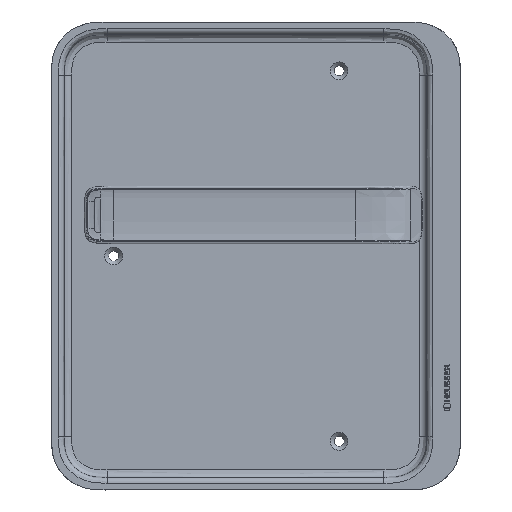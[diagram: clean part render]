
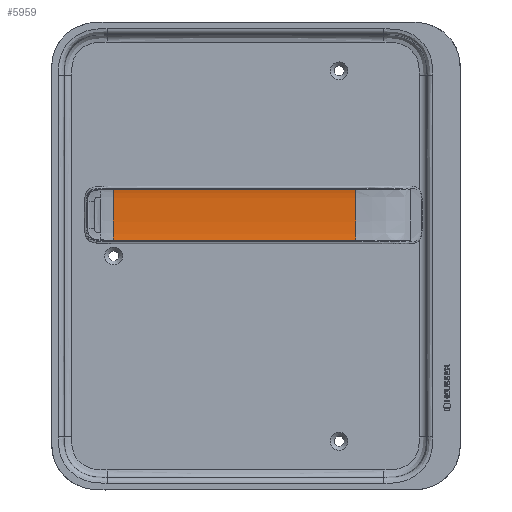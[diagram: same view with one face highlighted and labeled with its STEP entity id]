
A CAD part, top view. The second image highlights one B-rep face of the part: STEP entity #5959.
In plain terms, the highlighted free-form (B-spline) face has degree [1, 5] with [2, 6] control points.
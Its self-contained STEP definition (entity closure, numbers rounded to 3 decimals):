
#164=B_SPLINE_SURFACE_WITH_KNOTS('',1,5,((#17936,#17937,#17938,#17939,#17940,
#17941),(#17942,#17943,#17944,#17945,#17946,#17947)),.UNSPECIFIED.,.F.,
 .F.,.F.,(2,2),(6,6),(0.,1.),(0.,1.),.UNSPECIFIED.);
#417=B_SPLINE_CURVE_WITH_KNOTS('',3,(#14519,#14520,#14521,#14522,#14523,
#14524,#14525,#14526,#14527,#14528,#14529,#14530,#14531,#14532,#14533,#14534,
#14535,#14536,#14537,#14538,#14539,#14540,#14541,#14542,#14543,#14544,#14545,
#14546),.UNSPECIFIED.,.F.,.F.,(4,3,3,3,3,3,3,3,3,4),(3.015,3.808,
4.601,6.186,7.772,9.358,10.943,
12.529,14.115,15.703),.UNSPECIFIED.);
#423=B_SPLINE_CURVE_WITH_KNOTS('',5,(#14621,#14622,#14623,#14624,#14625,
#14626,#14627,#14628,#14629,#14630,#14631,#14632,#14633,#14634,#14635),
 .UNSPECIFIED.,.F.,.F.,(6,1,1,1,1,1,1,1,1,1,6),(20.644,20.647,
22.233,23.819,25.404,26.99,28.576,
30.161,31.747,32.54,33.333),
 .UNSPECIFIED.);
#478=B_SPLINE_CURVE_WITH_KNOTS('',5,(#17286,#17287,#17288,#17289,#17290,
#17291),.UNSPECIFIED.,.F.,.F.,(6,6),(0.014,0.986),
 .UNSPECIFIED.);
#495=B_SPLINE_CURVE_WITH_KNOTS('',5,(#17948,#17949,#17950,#17951,#17952,
#17953),.UNSPECIFIED.,.F.,.F.,(6,6),(0.014,0.986),
 .UNSPECIFIED.);
#1742=FACE_OUTER_BOUND('',#2141,.T.);
#2141=EDGE_LOOP('',(#5126,#5127,#5128,#5129));
#2696=VERTEX_POINT('',#14471);
#2697=VERTEX_POINT('',#14518);
#2702=VERTEX_POINT('',#14605);
#2703=VERTEX_POINT('',#14620);
#3451=EDGE_CURVE('',#2696,#2697,#417,.T.);
#3457=EDGE_CURVE('',#2702,#2703,#423,.T.);
#3527=EDGE_CURVE('',#2703,#2696,#478,.T.);
#3566=EDGE_CURVE('',#2702,#2697,#495,.T.);
#5126=ORIENTED_EDGE('',*,*,#3527,.F.);
#5127=ORIENTED_EDGE('',*,*,#3457,.F.);
#5128=ORIENTED_EDGE('',*,*,#3566,.T.);
#5129=ORIENTED_EDGE('',*,*,#3451,.F.);
#5959=ADVANCED_FACE('',(#1742),#164,.T.);
#14471=CARTESIAN_POINT('',(62.397,21.855,14.439));
#14518=CARTESIAN_POINT('',(-64.454,21.855,14.44));
#14519=CARTESIAN_POINT('Ctrl Pts',(62.397,21.855,14.439));
#14520=CARTESIAN_POINT('Ctrl Pts',(59.754,21.855,14.439));
#14521=CARTESIAN_POINT('Ctrl Pts',(57.111,21.855,14.439));
#14522=CARTESIAN_POINT('Ctrl Pts',(54.468,21.855,14.439));
#14523=CARTESIAN_POINT('Ctrl Pts',(51.826,21.855,14.439));
#14524=CARTESIAN_POINT('Ctrl Pts',(49.184,21.855,14.439));
#14525=CARTESIAN_POINT('Ctrl Pts',(46.541,21.855,14.439));
#14526=CARTESIAN_POINT('Ctrl Pts',(41.256,21.855,14.439));
#14527=CARTESIAN_POINT('Ctrl Pts',(35.969,21.855,14.439));
#14528=CARTESIAN_POINT('Ctrl Pts',(30.683,21.855,14.439));
#14529=CARTESIAN_POINT('Ctrl Pts',(25.397,21.855,14.439));
#14530=CARTESIAN_POINT('Ctrl Pts',(20.113,21.855,14.439));
#14531=CARTESIAN_POINT('Ctrl Pts',(14.828,21.855,14.439));
#14532=CARTESIAN_POINT('Ctrl Pts',(9.544,21.855,14.439));
#14533=CARTESIAN_POINT('Ctrl Pts',(4.259,21.855,14.439));
#14534=CARTESIAN_POINT('Ctrl Pts',(-1.027,21.855,14.439));
#14535=CARTESIAN_POINT('Ctrl Pts',(-6.314,21.855,14.439));
#14536=CARTESIAN_POINT('Ctrl Pts',(-11.601,21.855,14.44));
#14537=CARTESIAN_POINT('Ctrl Pts',(-16.887,21.855,14.44));
#14538=CARTESIAN_POINT('Ctrl Pts',(-22.173,21.855,14.44));
#14539=CARTESIAN_POINT('Ctrl Pts',(-27.456,21.855,14.44));
#14540=CARTESIAN_POINT('Ctrl Pts',(-32.739,21.855,14.44));
#14541=CARTESIAN_POINT('Ctrl Pts',(-38.022,21.855,14.44));
#14542=CARTESIAN_POINT('Ctrl Pts',(-43.308,21.855,14.44));
#14543=CARTESIAN_POINT('Ctrl Pts',(-48.599,21.855,14.44));
#14544=CARTESIAN_POINT('Ctrl Pts',(-53.901,21.855,14.44));
#14545=CARTESIAN_POINT('Ctrl Pts',(-59.215,21.854,14.44));
#14546=CARTESIAN_POINT('Ctrl Pts',(-64.454,21.855,14.44));
#14605=CARTESIAN_POINT('',(-64.463,48.367,14.44));
#14620=CARTESIAN_POINT('',(62.397,48.367,14.439));
#14621=CARTESIAN_POINT('Ctrl Pts',(-64.463,48.367,14.44));
#14622=CARTESIAN_POINT('Ctrl Pts',(-64.455,48.367,14.44));
#14623=CARTESIAN_POINT('Ctrl Pts',(-61.31,48.368,14.44));
#14624=CARTESIAN_POINT('Ctrl Pts',(-54.974,48.367,14.44));
#14625=CARTESIAN_POINT('Ctrl Pts',(-45.42,48.368,14.44));
#14626=CARTESIAN_POINT('Ctrl Pts',(-32.741,48.367,14.44));
#14627=CARTESIAN_POINT('Ctrl Pts',(-16.891,48.367,14.439));
#14628=CARTESIAN_POINT('Ctrl Pts',(-1.024,48.367,14.44));
#14629=CARTESIAN_POINT('Ctrl Pts',(14.829,48.367,14.439));
#14630=CARTESIAN_POINT('Ctrl Pts',(29.096,48.367,14.44));
#14631=CARTESIAN_POINT('Ctrl Pts',(41.786,48.367,14.439));
#14632=CARTESIAN_POINT('Ctrl Pts',(51.299,48.367,14.44));
#14633=CARTESIAN_POINT('Ctrl Pts',(57.64,48.367,14.439));
#14634=CARTESIAN_POINT('Ctrl Pts',(60.811,48.367,14.44));
#14635=CARTESIAN_POINT('Ctrl Pts',(62.397,48.367,14.439));
#17286=CARTESIAN_POINT('Ctrl Pts',(62.397,48.367,14.439));
#17287=CARTESIAN_POINT('Ctrl Pts',(62.397,46.219,13.823));
#17288=CARTESIAN_POINT('Ctrl Pts',(62.397,39.34,13.515));
#17289=CARTESIAN_POINT('Ctrl Pts',(62.397,30.883,13.515));
#17290=CARTESIAN_POINT('Ctrl Pts',(62.397,24.003,13.823));
#17291=CARTESIAN_POINT('Ctrl Pts',(62.397,21.855,14.439));
#17936=CARTESIAN_POINT('Ctrl Pts',(62.397,48.511,14.484));
#17937=CARTESIAN_POINT('Ctrl Pts',(62.397,46.584,13.832));
#17938=CARTESIAN_POINT('Ctrl Pts',(62.397,39.508,13.506));
#17939=CARTESIAN_POINT('Ctrl Pts',(62.397,30.715,13.506));
#17940=CARTESIAN_POINT('Ctrl Pts',(62.397,23.638,13.832));
#17941=CARTESIAN_POINT('Ctrl Pts',(62.397,21.711,14.484));
#17942=CARTESIAN_POINT('Ctrl Pts',(-64.471,48.511,14.484));
#17943=CARTESIAN_POINT('Ctrl Pts',(-64.473,46.585,13.832));
#17944=CARTESIAN_POINT('Ctrl Pts',(-64.474,39.508,13.506));
#17945=CARTESIAN_POINT('Ctrl Pts',(-64.474,30.715,13.506));
#17946=CARTESIAN_POINT('Ctrl Pts',(-64.473,23.638,13.832));
#17947=CARTESIAN_POINT('Ctrl Pts',(-64.471,21.711,14.484));
#17948=CARTESIAN_POINT('Ctrl Pts',(-64.454,48.367,14.44));
#17949=CARTESIAN_POINT('Ctrl Pts',(-64.456,46.218,13.823));
#17950=CARTESIAN_POINT('Ctrl Pts',(-64.457,39.339,13.515));
#17951=CARTESIAN_POINT('Ctrl Pts',(-64.457,30.883,13.515));
#17952=CARTESIAN_POINT('Ctrl Pts',(-64.456,24.004,13.823));
#17953=CARTESIAN_POINT('Ctrl Pts',(-64.454,21.855,14.44));
